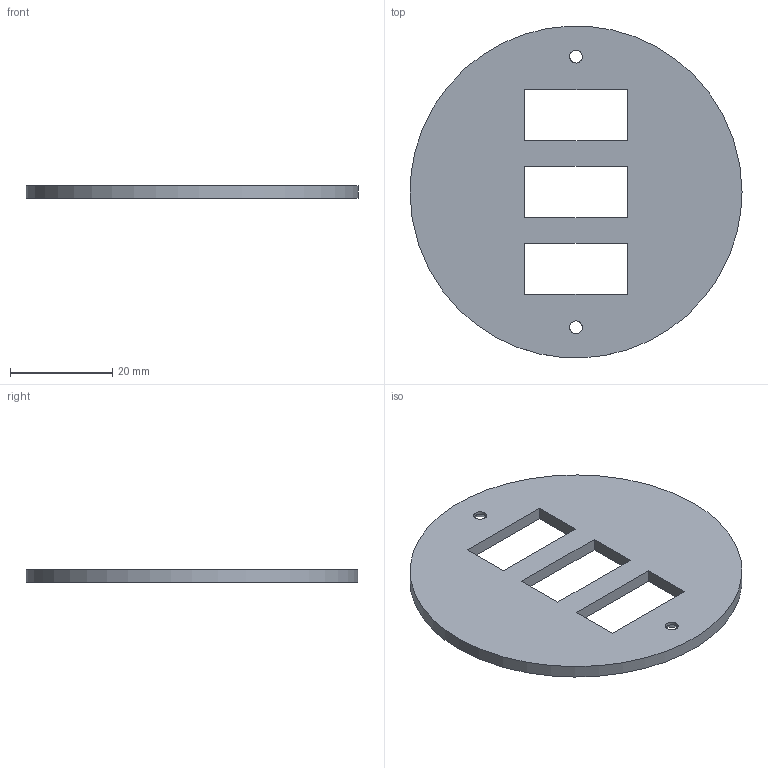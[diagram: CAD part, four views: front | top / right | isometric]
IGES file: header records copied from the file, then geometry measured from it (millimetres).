
Global section: file name: Tapa CanSat Superior; native system: Autodesk Inventor 2022; preprocessor: unknown; author: Daniel; date: 20220607.174133; units: millimetre
Bounding box: 65 x 64.94 x 2.5 mm (x, y, z)
Volume: 6730.5 mm3; surface area: 6408.9 mm2
Topology: 1 solids, 1 shells, 19 faces, 55 edges, 39 vertices
Faces by surface type: bspline 19
